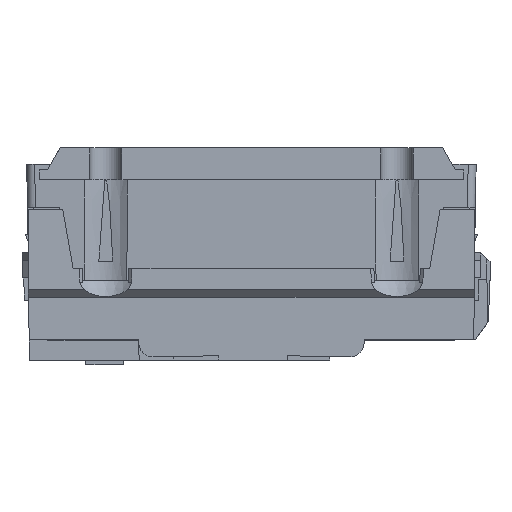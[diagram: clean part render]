
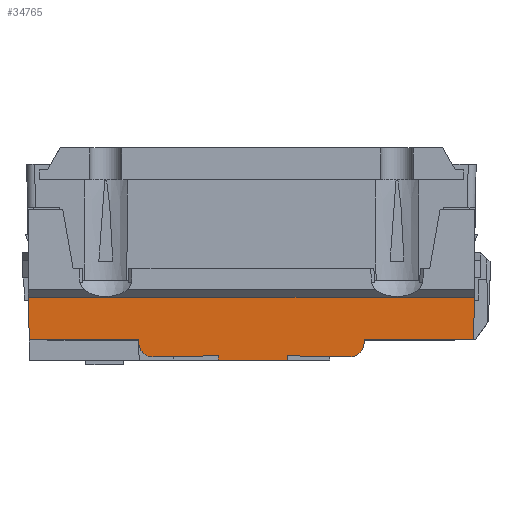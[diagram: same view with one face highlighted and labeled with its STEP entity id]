
A CAD part, left-side view. The second image highlights one B-rep face of the part: STEP entity #34765.
In plain terms, the highlighted planar face has unit normal (-1, 0, -0.009).
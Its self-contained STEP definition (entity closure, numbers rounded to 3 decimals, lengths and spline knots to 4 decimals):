
#104=ELLIPSE('',#36904,0.23,0.23);
#135=ELLIPSE('',#37096,0.23,0.23);
#1045=LINE('',#50711,#4454);
#2128=LINE('',#53125,#5537);
#2131=LINE('',#53130,#5540);
#2132=LINE('',#53132,#5541);
#2135=LINE('',#53138,#5544);
#2137=LINE('',#53143,#5546);
#2139=LINE('',#53146,#5548);
#2294=LINE('',#53452,#5703);
#2303=LINE('',#53469,#5712);
#2346=LINE('',#53558,#5755);
#2535=LINE('',#53999,#5944);
#2536=LINE('',#54000,#5945);
#4454=VECTOR('',#40657,7.2873);
#5537=VECTOR('',#42866,0.0501);
#5540=VECTOR('',#42871,1.7901);
#5541=VECTOR('',#42874,0.6994);
#5544=VECTOR('',#42879,0.0718);
#5546=VECTOR('',#42883,0.0725);
#5548=VECTOR('',#42887,1.061);
#5703=VECTOR('',#43140,1.131);
#5712=VECTOR('',#43155,1.0189);
#5755=VECTOR('',#43236,0.6994);
#5944=VECTOR('',#43655,0.0501);
#5945=VECTOR('',#43656,1.7901);
#9138=FACE_OUTER_BOUND('',#11201,.T.);
#11201=EDGE_LOOP('',(#25981,#25982,#25983,#25984,#25985,#25986,#25987,#25988,
#25989,#25990,#25991,#25992,#25993,#25994));
#14190=VERTEX_POINT('',#50708);
#14191=VERTEX_POINT('',#50710);
#14921=VERTEX_POINT('',#53116);
#14922=VERTEX_POINT('',#53117);
#14923=VERTEX_POINT('',#53124);
#14924=VERTEX_POINT('',#53128);
#14925=VERTEX_POINT('',#53134);
#14926=VERTEX_POINT('',#53136);
#14927=VERTEX_POINT('',#53140);
#14928=VERTEX_POINT('',#53142);
#15035=VERTEX_POINT('',#53467);
#15062=VERTEX_POINT('',#53557);
#15198=VERTEX_POINT('',#53996);
#15199=VERTEX_POINT('',#53998);
#17538=EDGE_CURVE('',#14190,#14191,#1045,.T.);
#18727=EDGE_CURVE('',#14921,#14922,#104,.F.);
#18732=EDGE_CURVE('',#14922,#14923,#2128,.F.);
#18735=EDGE_CURVE('',#14923,#14924,#2131,.F.);
#18736=EDGE_CURVE('',#14190,#14924,#2132,.F.);
#18739=EDGE_CURVE('',#14925,#14926,#2135,.T.);
#18741=EDGE_CURVE('',#14928,#14927,#2137,.T.);
#18743=EDGE_CURVE('',#14928,#14921,#2139,.T.);
#18898=EDGE_CURVE('',#14925,#14927,#2294,.F.);
#18907=EDGE_CURVE('',#14926,#15035,#2303,.T.);
#18953=EDGE_CURVE('',#15062,#14191,#2346,.F.);
#19179=EDGE_CURVE('',#15198,#15035,#135,.F.);
#19180=EDGE_CURVE('',#15199,#15198,#2535,.F.);
#19181=EDGE_CURVE('',#15062,#15199,#2536,.F.);
#25981=ORIENTED_EDGE('',*,*,#18743,.F.);
#25982=ORIENTED_EDGE('',*,*,#18741,.T.);
#25983=ORIENTED_EDGE('',*,*,#18898,.F.);
#25984=ORIENTED_EDGE('',*,*,#18739,.T.);
#25985=ORIENTED_EDGE('',*,*,#18907,.T.);
#25986=ORIENTED_EDGE('',*,*,#19179,.F.);
#25987=ORIENTED_EDGE('',*,*,#19180,.F.);
#25988=ORIENTED_EDGE('',*,*,#19181,.F.);
#25989=ORIENTED_EDGE('',*,*,#18953,.T.);
#25990=ORIENTED_EDGE('',*,*,#17538,.F.);
#25991=ORIENTED_EDGE('',*,*,#18736,.T.);
#25992=ORIENTED_EDGE('',*,*,#18735,.F.);
#25993=ORIENTED_EDGE('',*,*,#18732,.F.);
#25994=ORIENTED_EDGE('',*,*,#18727,.F.);
#31275=PLANE('',#37095);
#34765=ADVANCED_FACE('',(#9138),#31275,.T.);
#36904=AXIS2_PLACEMENT_3D('',#53118,#42858,#42859);
#37095=AXIS2_PLACEMENT_3D('',#53995,#43651,#43652);
#37096=AXIS2_PLACEMENT_3D('',#53997,#43653,#43654);
#40657=DIRECTION('',(0.,-1.,0.));
#42858=DIRECTION('center_axis',(-1.,0.,
-0.009));
#42859=DIRECTION('ref_axis',(0.009,0.,
-1.));
#42866=DIRECTION('',(0.009,-0.017,-1.));
#42871=DIRECTION('',(0.,-1.,0.));
#42874=DIRECTION('',(-0.009,0.017,1.));
#42879=DIRECTION('',(-0.009,-0.017,1.));
#42883=DIRECTION('',(0.009,-0.017,-1.));
#42887=DIRECTION('',(0.,1.,-0.017));
#43140=DIRECTION('',(0.,-1.,0.));
#43155=DIRECTION('',(0.,-1.,-0.017));
#43236=DIRECTION('',(0.009,0.017,-1.));
#43651=DIRECTION('center_axis',(-1.,0.,
-0.009));
#43652=DIRECTION('ref_axis',(0.,-1.,0.));
#43653=DIRECTION('center_axis',(-1.,0.,
-0.009));
#43654=DIRECTION('ref_axis',(0.009,0.,
-1.));
#43655=DIRECTION('',(-0.009,-0.017,1.));
#43656=DIRECTION('',(0.,-1.,0.));
#50708=CARTESIAN_POINT('',(-4.0943,3.6436,-1.6607));
#50710=CARTESIAN_POINT('',(-4.0943,-3.6436,-1.6607));
#50711=CARTESIAN_POINT('',(-4.0943,3.6384,-1.6607));
#53116=CARTESIAN_POINT('',(-4.0858,1.6065,-2.636));
#53117=CARTESIAN_POINT('',(-4.0878,1.8405,-2.41));
#53118=CARTESIAN_POINT('Origin',(-4.0878,1.6105,-2.406));
#53124=CARTESIAN_POINT('',(-4.0882,1.8414,-2.36));
#53125=CARTESIAN_POINT('',(-4.096,1.8569,-1.4717));
#53128=CARTESIAN_POINT('',(-4.0882,3.6314,-2.36));
#53130=CARTESIAN_POINT('',(-4.0882,1.8196,-2.36));
#53132=CARTESIAN_POINT('',(-4.0973,3.6496,-1.321));
#53134=CARTESIAN_POINT('',(-4.0853,-0.5865,-2.69));
#53136=CARTESIAN_POINT('',(-4.086,-0.5878,-2.6182));
#53138=CARTESIAN_POINT('',(-4.091,-0.5979,-2.0409));
#53140=CARTESIAN_POINT('',(-4.0853,0.5444,-2.69));
#53142=CARTESIAN_POINT('',(-4.086,0.5457,-2.6175));
#53143=CARTESIAN_POINT('',(-4.0915,0.5568,-1.9793));
#53146=CARTESIAN_POINT('',(-4.0856,2.7271,-2.6556));
#53452=CARTESIAN_POINT('',(-4.0853,0.1196,-2.69));
#53467=CARTESIAN_POINT('',(-4.0858,-1.6065,-2.636));
#53469=CARTESIAN_POINT('',(-4.0863,1.3599,-2.5842));
#53557=CARTESIAN_POINT('',(-4.0882,-3.6314,-2.36));
#53558=CARTESIAN_POINT('',(-4.0909,-3.6367,-2.0566));
#53995=CARTESIAN_POINT('Origin',(-4.0967,3.6392,-1.3905));
#53996=CARTESIAN_POINT('',(-4.0878,-1.8405,-2.41));
#53997=CARTESIAN_POINT('Origin',(-4.0878,-1.6105,-2.406));
#53998=CARTESIAN_POINT('',(-4.0882,-1.8414,-2.36));
#53999=CARTESIAN_POINT('',(-4.0954,-1.8558,-1.5349));
#54000=CARTESIAN_POINT('',(-4.0882,1.8196,-2.36));
